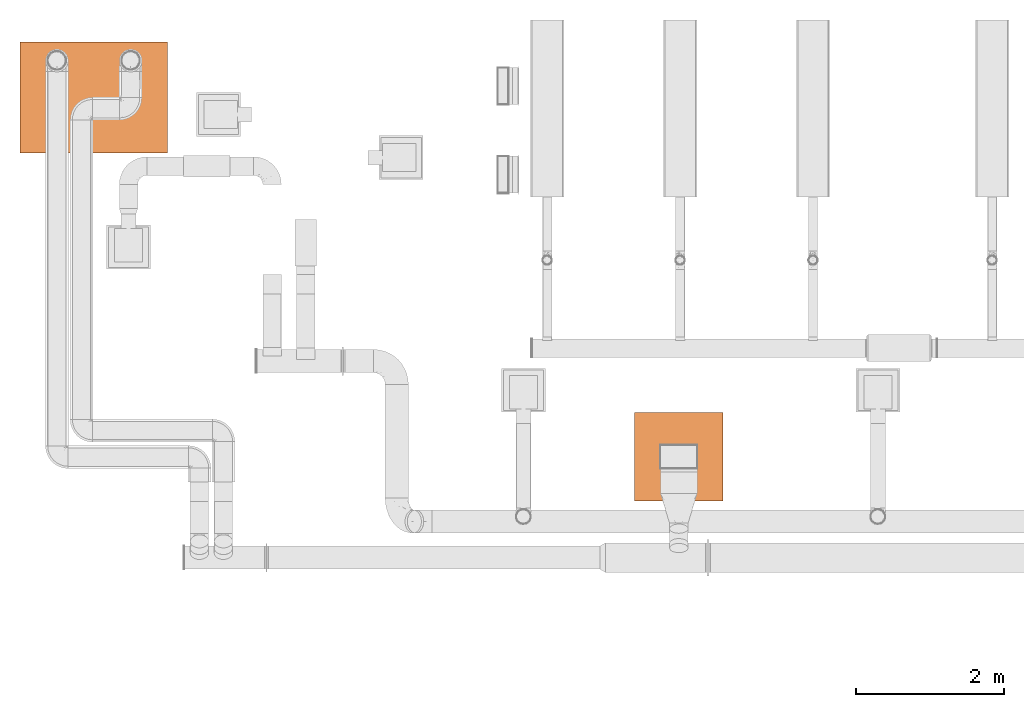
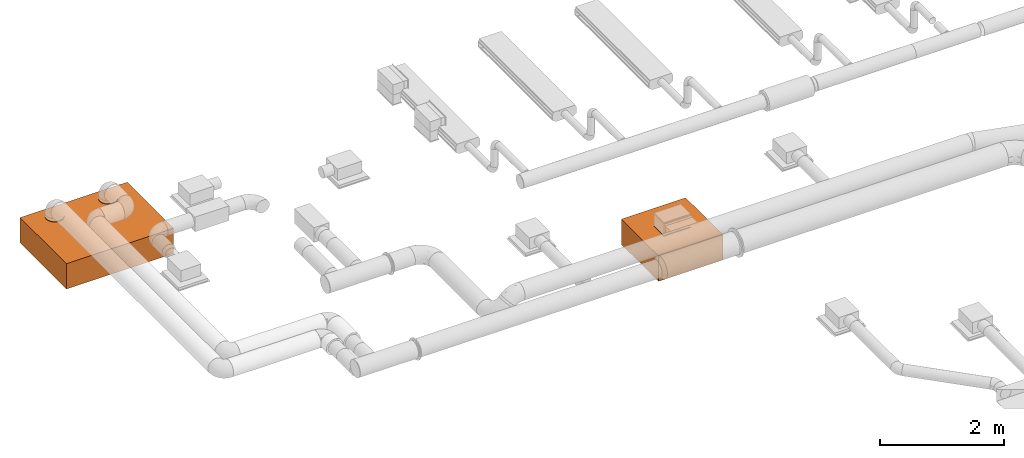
# One storey, part 36 of 36: 2 proxies.
"""IFC2X3 building model written with IfcOpenShell, lengths in millimetres."""

import ifcopenshell
import ifcopenshell.guid

model = None  # the IFC model being written
_history = None  # IfcOwnerHistory: only IFC2X3 demands one
_inside = {}  # id of a spatial element -> (the spatial element, [elements in it])
_under = {}  # id of a project, library or spatial element -> (it, [spatial elements below it])
_declared = {}  # id of a project -> (the project, [libraries it declares])
_typed = {}  # id of a type object -> (the type object, [elements of that type])
_made_of = {}  # id of a material, layer set ... -> (it, [elements and type objects made of it])


def new_model(schema):
    """Start an empty IFC model of exactly this schema.

    Asked for "IFC4X3", IfcOpenShell would pick the latest addendum, in which some entities
    have other attributes; the version numbers below select the first issue.
    IFC2X3 requires an IfcOwnerHistory on every rooted entity: one is made here for all.
    """
    global model, _history
    if schema == "IFC4X3":
        model = ifcopenshell.file(schema_version=(4, 3, 0, 0))
    else:
        model = ifcopenshell.file(schema=schema)
    _inside.clear()
    _under.clear()
    _declared.clear()
    _typed.clear()
    _made_of.clear()
    _history = None
    if model.schema == "IFC2X3":
        org = make("IfcOrganization", Name="unknown")
        user = make(
            "IfcPersonAndOrganization",
            ThePerson=make("IfcPerson", FamilyName="unknown"),
            TheOrganization=org,
        )
        app = make(
            "IfcApplication",
            ApplicationDeveloper=org,
            Version="unknown",
            ApplicationFullName="unknown",
            ApplicationIdentifier="unknown",
        )
        _history = make(
            "IfcOwnerHistory",
            OwningUser=user,
            OwningApplication=app,
            ChangeAction="ADDED",
            CreationDate=0,
        )
    return model


def make(cls, **values):
    """One entity of the class cls with the attributes given. An attribute that is None is left unset."""
    return model.create_entity(
        cls, **{name: value for name, value in values.items() if value is not None}
    )


def entity(cls, *values):
    """Any entity or typed value of the class cls, its attributes in the order of the schema. None: left unset."""
    e = model.create_entity(cls)
    for i, value in enumerate(values):
        if value is not None:
            e[i] = value
    return e


def rooted(cls, **values):
    """An entity with a GlobalId (a new one), such as an element, a storey or a relation."""
    return make(cls, GlobalId=ifcopenshell.guid.new(), OwnerHistory=_history, **values)


def si_unit(unit_type, name, prefix=None):
    """IfcSIUnit, for example si_unit("LENGTHUNIT", "METRE", prefix="MILLI")."""
    return make("IfcSIUnit", UnitType=unit_type, Prefix=prefix, Name=name)


def converted_unit(unit_type, name, factor, base, dimensions=None, offset=None):
    """IfcConversionBasedUnit, such as the inch: factor (a typed value) times the base unit."""
    return make(
        "IfcConversionBasedUnit"
        if offset is None
        else "IfcConversionBasedUnitWithOffset",
        ConversionOffset=offset,
        Dimensions=None
        if dimensions is None
        else entity("IfcDimensionalExponents", *dimensions),
        UnitType=unit_type,
        Name=name,
        ConversionFactor=make(
            "IfcMeasureWithUnit", ValueComponent=factor, UnitComponent=base
        ),
    )


def derived_unit(unit_type, elements):
    """IfcDerivedUnit: a product of units, each with its exponent."""
    return make(
        "IfcDerivedUnit",
        Elements=[
            make("IfcDerivedUnitElement", Unit=unit, Exponent=power)
            for unit, power in elements
        ],
        UnitType=unit_type,
    )


def assignment(units):
    """IfcUnitAssignment: the units of a project."""
    return None if units is None else make("IfcUnitAssignment", Units=units)


def point(xyz):
    """IfcCartesianPoint."""
    return None if xyz is None else make("IfcCartesianPoint", Coordinates=xyz)


def direction(xyz):
    """IfcDirection."""
    return None if xyz is None else make("IfcDirection", DirectionRatios=xyz)


def frame(location, z_axis=None, x_axis=None):
    """IfcAxis2Placement3D, a coordinate frame: its origin and axes. An axis left out is left unset."""
    return make(
        "IfcAxis2Placement3D",
        Location=point(location),
        Axis=direction(z_axis),
        RefDirection=direction(x_axis),
    )


def origin_with_axes():
    """The frame at (0, 0, 0) with the z axis (0, 0, 1) and the x axis (1, 0, 0) written out."""
    return frame((0.0, 0.0, 0.0), z_axis=(0.0, 0.0, 1.0), x_axis=(1.0, 0.0, 0.0))


def place(relative_to, where):
    """IfcLocalPlacement: puts the frame where relative to a parent placement (None: the world)."""
    return make(
        "IfcLocalPlacement", PlacementRelTo=relative_to, RelativePlacement=where
    )


def context(
    kind, dimensions, precision=None, world=None, true_north=None, identifier=None
):
    """IfcGeometricRepresentationContext, for example the 3D "Model" context."""
    return make(
        "IfcGeometricRepresentationContext",
        ContextIdentifier=identifier,
        ContextType=kind,
        CoordinateSpaceDimension=dimensions,
        Precision=precision,
        WorldCoordinateSystem=world,
        TrueNorth=true_north,
    )


def subcontext(parent, identifier, kind, view, scale=None):
    """IfcGeometricRepresentationSubContext, for example "Body" below "Model"."""
    return make(
        "IfcGeometricRepresentationSubContext",
        ContextIdentifier=identifier,
        ContextType=kind,
        ParentContext=parent,
        TargetScale=scale,
        TargetView=view,
    )


def project(units=None, contexts=None):
    """IfcProject with its units and contexts."""
    return rooted(
        "IfcProject",
        Name="project",
        RepresentationContexts=contexts,
        UnitsInContext=assignment(units),
    )


def spatial(cls, under=None, at=None, **own):
    """A site, building, storey or space (cls), placed at a placement, below another one or the project."""
    s = rooted(cls, ObjectPlacement=at, **own)
    if under is not None:
        _under.setdefault(under.id(), (under, []))[1].append(s)
    return s


def faces_of(points, faces, orient=None, outer=None):
    """IfcFace entities. A face is a list of loops; a loop is a list of indices into points, from 0.

    orient and outer hold one flag for each loop. By default every Orientation is true, the
    first loop of a face is its IfcFaceOuterBound and the others are IfcFaceBound.
    """
    made = []
    for i, loops in enumerate(faces):
        bounds = []
        for j, loop in enumerate(loops):
            is_outer = j == 0 if outer is None else outer[i][j]
            bounds.append(
                make(
                    "IfcFaceOuterBound" if is_outer else "IfcFaceBound",
                    Bound=make("IfcPolyLoop", Polygon=[points[k] for k in loop]),
                    Orientation=True if orient is None else orient[i][j],
                )
            )
        made.append(make("IfcFace", Bounds=bounds))
    return made


def open_shell(faces, orient=None, outer=None):
    """The faces of one IfcOpenShell. surface_model builds it on its shared points."""
    return ("IfcOpenShell", faces, orient, outer)


def surface_model(cls, points, shells):
    """IfcFaceBasedSurfaceModel or IfcShellBasedSurfaceModel (cls): surfaces that need not close."""
    shared = [point(p) for p in points]
    made = [make(c, CfsFaces=faces_of(shared, fs, o, b)) for c, fs, o, b in shells]
    if cls == "IfcFaceBasedSurfaceModel":
        return make(cls, FbsmFaces=made)
    return make(cls, SbsmBoundary=made)


def shape(context_of_items, identifier, shape_type, items):
    """IfcShapeRepresentation: the items that make up one representation, for example the "Body"."""
    return make(
        "IfcShapeRepresentation",
        ContextOfItems=context_of_items,
        RepresentationIdentifier=identifier,
        RepresentationType=shape_type,
        Items=items,
    )


def source(mapping_origin, context_of_items, identifier, shape_type, items):
    """IfcRepresentationMap: a shape defined once, which mapped items show again and again."""
    return make(
        "IfcRepresentationMap",
        MappingOrigin=mapping_origin,
        MappedRepresentation=shape(context_of_items, identifier, shape_type, items),
    )


def transform(
    local_origin,
    x_axis=None,
    y_axis=None,
    z_axis=None,
    scale=None,
    scale2=None,
    scale3=None,
    uniform=True,
):
    """IfcCartesianTransformationOperator3D, or its non-uniform kind. x_axis, y_axis, z_axis: its Axis1, 2, 3."""
    if uniform:
        return make(
            "IfcCartesianTransformationOperator3D",
            Axis1=direction(x_axis),
            Axis2=direction(y_axis),
            LocalOrigin=point(local_origin),
            Scale=scale,
            Axis3=direction(z_axis),
        )
    return make(
        "IfcCartesianTransformationOperator3DnonUniform",
        Axis1=direction(x_axis),
        Axis2=direction(y_axis),
        LocalOrigin=point(local_origin),
        Scale=scale,
        Axis3=direction(z_axis),
        Scale2=scale2,
        Scale3=scale3,
    )


def mapped(mapping_source, mapping_target):
    """IfcMappedItem: shows the shape of a source again, moved by a transform."""
    return make(
        "IfcMappedItem", MappingSource=mapping_source, MappingTarget=mapping_target
    )


def made_of(thing, what):
    """Note that an element or type object is made of a material, layer set ...; save() writes the relation."""
    if what is not None:
        _made_of.setdefault(what.id(), (what, []))[1].append(thing)
    return thing


def element(
    cls,
    number,
    at=None,
    inside=None,
    cuts=None,
    type_object=None,
    material=None,
    context=None,
    identifier="Body",
    shape_type=None,
    held_by="IfcProductDefinitionShape",
    body=None,
    shapes=None,
    **own,
):
    """One element of the class cls, such as IfcWall. Its Tag is "e" and its number.

    at: its placement. inside: the storey or other place that contains it. cuts: it is an
    opening in that element (IfcRelVoidsElement). A single representation is given by context,
    identifier, shape_type and body (its items); several are given by shapes. held_by: the class
    of the entity that holds the representations. save() writes the other relations.
    """
    e = rooted(cls, Tag="e%d" % number, ObjectPlacement=at, **own)
    if body is not None:
        shapes = [shape(context, identifier, shape_type, body)]
    if shapes is not None:
        e.Representation = make(held_by, Representations=shapes)
    if inside is not None:
        _inside.setdefault(inside.id(), (inside, []))[1].append(e)
    if cuts is not None:
        rooted(
            "IfcRelVoidsElement", RelatingBuildingElement=cuts, RelatedOpeningElement=e
        )
    if type_object is not None:
        _typed.setdefault(type_object.id(), (type_object, []))[1].append(e)
    return made_of(e, material)


def aggregate(whole, parts):
    """IfcRelAggregates: a whole, such as a stair, and the parts it consists of."""
    return rooted("IfcRelAggregates", RelatingObject=whole, RelatedObjects=parts)


def save(model, path):
    """Write the relations noted so far, then the file.

    IfcRelAggregates (storeys below a building ...), IfcRelContainedInSpatialStructure (elements
    in a storey), IfcRelDefinesByType, IfcRelAssociatesMaterial and IfcRelDeclares: one each for
    every whole, place, type object, material and project.
    """
    for whole, parts in _under.values():
        aggregate(whole, parts)
    for where, things in _inside.values():
        rooted(
            "IfcRelContainedInSpatialStructure",
            RelatedElements=things,
            RelatingStructure=where,
        )
    for kind, things in _typed.values():
        rooted("IfcRelDefinesByType", RelatedObjects=things, RelatingType=kind)
    for what, things in _made_of.values():
        rooted("IfcRelAssociatesMaterial", RelatedObjects=things, RelatingMaterial=what)
    for by, libraries in _declared.values():
        rooted("IfcRelDeclares", RelatingContext=by, RelatedDefinitions=libraries)
    model.write(path)


model = new_model("IFC2X3")

# Units and contexts
model_context = context("Model", 3, precision=0.01, world=frame((0.0, 4.29681676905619e-09, 0.0)), true_north=direction((4.01073788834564e-13, 1.0)))
plan_context = context("Plan", 3, precision=0.01, world=frame((0.0, 4.29681676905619e-09, 0.0)), true_north=direction((4.01073788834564e-13, 1.0)))
body_context = subcontext(model_context, "Body", "Model", "MODEL_VIEW")
ifc_project = project(units=[converted_unit("PLANEANGLEUNIT", "DEGREE", entity("IfcPositiveLengthMeasure", 0.0174532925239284), si_unit("PLANEANGLEUNIT", "RADIAN"), dimensions=[0, 0, 0, 0, 0, 0, 0]), si_unit("AREAUNIT", "SQUARE_METRE"), si_unit("LENGTHUNIT", "METRE", prefix="MILLI"), si_unit("MASSUNIT", "GRAM", prefix="KILO"), si_unit("POWERUNIT", "WATT"), si_unit("PRESSUREUNIT", "PASCAL"), si_unit("FORCEUNIT", "NEWTON", prefix="KILO"), si_unit("ELECTRICCURRENTUNIT", "AMPERE"), si_unit("THERMODYNAMICTEMPERATUREUNIT", "DEGREE_CELSIUS"), si_unit("TIMEUNIT", "SECOND"), si_unit("VOLUMEUNIT", "CUBIC_METRE"), derived_unit("LINEARVELOCITYUNIT", [(si_unit("LENGTHUNIT", "METRE"), 1), (si_unit("TIMEUNIT", "SECOND"), -1)]), derived_unit("VOLUMETRICFLOWRATEUNIT", [(si_unit("VOLUMEUNIT", "CUBIC_METRE"), 1), (si_unit("TIMEUNIT", "SECOND"), -1)]), derived_unit("THERMALTRANSMITTANCEUNIT", [(si_unit("POWERUNIT", "WATT"), 1), (si_unit("THERMODYNAMICTEMPERATUREUNIT", "KELVIN"), -1), (si_unit("AREAUNIT", "SQUARE_METRE"), -1)])], contexts=[model_context, plan_context])

# Site, building, storey
site_placement = place(None, frame((0.0, -4.29681676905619e-09, 0.0), z_axis=(0.0, 0.0, 1.0), x_axis=(1.0, 0.0, 0.0)))
site = spatial("IfcSite", under=ifc_project, at=site_placement, CompositionType="ELEMENT")
building_placement = place(site_placement, frame((0.0, 4.29681676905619e-09, 0.0), z_axis=(0.0, 0.0, 1.0), x_axis=(1.0, 0.0, 0.0)))
building = spatial("IfcBuilding", under=site, at=building_placement, Name="mc-building", CompositionType="ELEMENT")
storey_placement = place(building_placement, frame((0.0, 0.0, 204000.0), z_axis=(0.0, 0.0, 1.0), x_axis=(1.0, 0.0, 0.0)))
storey = spatial("IfcBuildingStorey", under=building, at=storey_placement, Name="Nivå D", CompositionType="ELEMENT", Elevation=204000.0)

# Proxies
shared_shape_1 = source(origin_with_axes(), body_context, "Body", "SurfaceModel", [
    surface_model("IfcShellBasedSurfaceModel", [(540.76401, 397.86667, 560.00001), (578.74999, 413.60099, 560.00001), (611.3693, 438.63068, 560.00001), (500.0, 392.49999, 560.00001), (636.39902, 471.25001, 560.00001), (652.1333, 509.236, 560.00001), (657.49998, 550.0, 560.00001), (363.60099, 471.25001, 560.00001), (652.1333, 590.76401, 560.00001), (459.23599, 397.86667, 560.00001), (421.25001, 413.60099, 560.00001), (388.63068, 438.63068, 560.00001), (342.49999, 550.0, 560.00001), (347.86667, 509.236, 560.00001), (540.76401, 702.13331, 560.00001), (636.39902, 628.74999, 560.00001), (578.74999, 686.39902, 560.00001), (611.3693, 661.3693, 560.00001), (388.63068, 661.3693, 560.00001), (459.23599, 702.13331, 560.00001), (500.0, 707.49998, 560.00001), (347.86667, 590.76401, 560.00001), (363.60099, 628.74999, 560.00001), (421.25001, 686.39902, 560.00001), (540.76401, 702.13331, 550.0), (459.23599, 702.13331, 550.0), (500.0, 707.49998, 550.0), (636.39902, 628.74999, 550.0), (578.74999, 686.39902, 550.0), (652.1333, 590.76401, 550.0), (611.3693, 661.3693, 550.0), (363.60099, 471.25001, 550.0), (388.63068, 661.3693, 550.0), (421.25001, 686.39902, 550.0), (347.86667, 590.76401, 550.0), (363.60099, 628.74999, 550.0), (342.49999, 550.0, 550.0), (657.49998, 550.0, 550.0), (652.1333, 509.236, 550.0), (636.39902, 471.25001, 550.0), (611.3693, 438.63068, 550.0), (578.74999, 413.60099, 550.0), (540.76401, 397.86667, 550.0), (459.23599, 397.86667, 550.0), (500.0, 392.49999, 550.0), (421.25001, 413.60099, 550.0), (388.63068, 438.63068, 550.0), (347.86667, 509.236, 550.0), (1578.75, 413.60099, 560.00001), (1500.00001, 392.49999, 560.00001), (1540.76395, 397.86667, 560.00001), (1611.36938, 438.63068, 560.00001), (1347.86671, 509.236, 560.00001), (1636.39895, 471.25001, 560.00001), (1652.13331, 509.236, 560.00001), (1657.49999, 550.0, 560.00001), (1347.86671, 590.76401, 560.00001), (1421.25002, 413.60099, 560.00001), (1459.23593, 397.86667, 560.00001), (1363.60107, 471.25001, 560.00001), (1388.63065, 438.63068, 560.00001), (1636.39895, 628.74999, 560.00001), (1578.75, 686.39902, 560.00001), (1611.36938, 661.3693, 560.00001), (1540.76395, 702.13331, 560.00001), (1459.23593, 702.13331, 560.00001), (1500.00001, 707.49998, 560.00001), (1363.60107, 628.74999, 560.00001), (1342.50003, 550.0, 560.00001), (1388.63065, 661.3693, 560.00001), (1421.25002, 686.39902, 560.00001), (1652.13331, 590.76401, 560.00001), (1540.76395, 702.13331, 550.0), (1459.23593, 702.13331, 550.0), (1500.00001, 707.49998, 550.0), (1578.75, 686.39902, 550.0), (1347.86671, 590.76401, 550.0), (1347.86671, 509.236, 550.0), (1636.39895, 628.74999, 550.0), (1611.36938, 661.3693, 550.0), (1388.63065, 661.3693, 550.0), (1421.25002, 686.39902, 550.0), (1363.60107, 628.74999, 550.0), (1342.50003, 550.0, 550.0), (1652.13331, 590.76401, 550.0), (1657.49999, 550.0, 550.0), (1652.13331, 509.236, 550.0), (1636.39895, 471.25001, 550.0), (1611.36938, 438.63068, 550.0), (1578.75, 413.60099, 550.0), (1540.76395, 397.86667, 550.0), (1500.00001, 392.49999, 550.0), (1363.60107, 471.25001, 550.0), (1421.25002, 413.60099, 550.0), (1388.63065, 438.63068, 550.0), (1459.23593, 397.86667, 550.0), (0.0, 300.0, 550.0), (2000.00002, 300.0, 550.0), (0.0, 1800.00001, 550.0), (2000.00002, 1800.00001, 550.0), (0.0, 1800.00001, 50.48458), (2000.00002, 1800.00001, 50.48458), (0.0, 300.0, 50.48458), (2000.00002, 300.0, 50.48458)], [open_shell([[[0, 1, 2]], [[3, 0, 2]], [[4, 5, 6]], [[2, 4, 7]], [[4, 8, 7]], [[9, 7, 10]], [[9, 3, 2]], [[10, 7, 11]], [[2, 7, 9]], [[7, 12, 13]], [[8, 4, 6]], [[14, 8, 15]], [[16, 15, 17]], [[14, 18, 7]], [[14, 15, 16]], [[19, 14, 20]], [[21, 18, 22]], [[18, 21, 12]], [[18, 19, 23]], [[12, 7, 18]], [[14, 19, 18]], [[7, 8, 14]], [[24, 25, 26]], [[27, 24, 28]], [[27, 29, 24]], [[27, 28, 30]], [[31, 32, 24]], [[25, 32, 33]], [[25, 24, 32]], [[32, 34, 35]], [[34, 32, 36]], [[32, 31, 36]], [[31, 24, 29]], [[37, 38, 39]], [[29, 39, 40]], [[40, 41, 42]], [[40, 43, 29]], [[42, 44, 40]], [[31, 45, 46]], [[47, 36, 31]], [[31, 43, 45]], [[29, 43, 31]], [[44, 43, 40]], [[39, 29, 37]], [[47, 13, 36]], [[31, 7, 47]], [[10, 46, 45]], [[31, 46, 11]], [[9, 45, 43]], [[47, 7, 13]], [[13, 12, 36]], [[9, 10, 45]], [[11, 46, 10]], [[11, 7, 31]], [[3, 9, 43]], [[43, 44, 3]], [[42, 0, 44]], [[41, 1, 42]], [[4, 40, 39]], [[41, 40, 2]], [[5, 39, 38]], [[41, 2, 1]], [[1, 0, 42]], [[6, 5, 38]], [[4, 39, 5]], [[4, 2, 40]], [[37, 6, 38]], [[44, 0, 3]], [[29, 8, 37]], [[27, 15, 29]], [[16, 30, 28]], [[27, 30, 17]], [[14, 28, 24]], [[29, 15, 8]], [[8, 6, 37]], [[14, 16, 28]], [[17, 30, 16]], [[17, 15, 27]], [[20, 14, 24]], [[24, 26, 20]], [[19, 26, 25]], [[22, 35, 34]], [[35, 18, 32]], [[21, 34, 36]], [[25, 23, 19]], [[23, 25, 33]], [[23, 33, 18]], [[33, 32, 18]], [[35, 22, 18]], [[21, 22, 34]], [[36, 12, 21]], [[26, 19, 20]], [[48, 49, 50]], [[51, 52, 48]], [[53, 54, 55]], [[52, 51, 53]], [[53, 56, 52]], [[49, 57, 58]], [[49, 48, 57]], [[57, 59, 60]], [[59, 57, 52]], [[48, 52, 57]], [[53, 55, 61]], [[61, 62, 53]], [[62, 61, 63]], [[56, 53, 64]], [[53, 62, 64]], [[65, 64, 66]], [[56, 65, 67]], [[68, 52, 56]], [[69, 65, 70]], [[65, 69, 67]], [[64, 65, 56]], [[61, 55, 71]], [[72, 73, 74]], [[75, 76, 72]], [[77, 76, 75]], [[78, 75, 79]], [[77, 75, 78]], [[73, 80, 81]], [[80, 73, 82]], [[73, 76, 82]], [[73, 72, 76]], [[76, 77, 83]], [[78, 84, 85]], [[85, 86, 87]], [[78, 87, 77]], [[77, 88, 89]], [[88, 77, 87]], [[90, 91, 89]], [[92, 93, 94]], [[93, 92, 77]], [[93, 91, 95]], [[93, 77, 89]], [[89, 91, 93]], [[87, 78, 85]], [[77, 52, 83]], [[92, 59, 77]], [[57, 94, 93]], [[92, 94, 60]], [[58, 93, 95]], [[77, 59, 52]], [[52, 68, 83]], [[58, 57, 93]], [[60, 94, 57]], [[60, 59, 92]], [[49, 58, 95]], [[95, 91, 49]], [[90, 50, 91]], [[89, 48, 90]], [[53, 88, 87]], [[89, 88, 51]], [[54, 87, 86]], [[89, 51, 48]], [[48, 50, 90]], [[55, 54, 86]], [[53, 87, 54]], [[53, 51, 88]], [[85, 55, 86]], [[91, 50, 49]], [[84, 71, 85]], [[78, 61, 84]], [[62, 79, 75]], [[78, 79, 63]], [[64, 75, 72]], [[84, 61, 71]], [[71, 55, 85]], [[64, 62, 75]], [[63, 79, 62]], [[63, 61, 78]], [[66, 64, 72]], [[72, 74, 66]], [[65, 74, 73]], [[67, 82, 76]], [[82, 69, 80]], [[56, 76, 83]], [[73, 70, 65]], [[70, 73, 81]], [[70, 81, 69]], [[81, 80, 69]], [[82, 67, 69]], [[56, 67, 76]], [[83, 68, 56]], [[74, 65, 66]], [[96, 97, 98]], [[99, 98, 97]], [[100, 101, 102]], [[103, 102, 101]], [[99, 97, 101]], [[103, 101, 97]], [[98, 99, 101]], [[101, 100, 98]], [[96, 98, 102]], [[100, 102, 98]], [[97, 96, 102]], [[102, 103, 97]]])]),
])
proxy_1_placement = place(storey_placement, frame((516077.5, 421015.19145, 1850.0), z_axis=(0.0, 0.0, 1.0), x_axis=(-1.0, 0.0, 0.0)))
element("IfcBuildingElementProxy", 1, at=proxy_1_placement, inside=storey, Name="hette 1100-2000-550 2ø315", context=body_context, shape_type="MappedRepresentation", body=[
    mapped(shared_shape_1, transform((0.0, 0.0, 0.0), scale=1.0)),
])
shared_shape_2 = source(origin_with_axes(), body_context, "Body", "SurfaceModel", [
    surface_model("IfcShellBasedSurfaceModel", [(0.0, 0.0, 500.0), (0.0, 1200.0, 500.0), (0.0, 1200.0, 0.0), (0.0, 0.0, 0.0), (1200.0, 0.0, 500.0), (1200.0, 0.0, 0.0), (759.37451, 346.5997, 510.00001), (759.37451, 846.59971, 510.00001), (439.37453, 346.5997, 510.00001), (439.37453, 846.59971, 510.00001), (439.37453, 346.5997, 500.0), (439.37453, 846.59971, 500.0), (759.37451, 846.59971, 500.0), (759.37451, 346.5997, 500.0), (1200.0, 1200.0, 500.0), (1200.0, 1200.0, 0.0)], [open_shell([[[0, 1, 2]], [[2, 3, 0]], [[4, 0, 3]], [[3, 5, 4]], [[6, 7, 8]], [[9, 8, 7]], [[10, 11, 12]], [[12, 13, 10]], [[9, 7, 12]], [[12, 11, 9]], [[8, 9, 10]], [[11, 10, 9]], [[6, 8, 10]], [[10, 13, 6]], [[7, 6, 12]], [[13, 12, 6]], [[0, 4, 14]], [[14, 1, 0]], [[2, 15, 5]], [[5, 3, 2]], [[14, 4, 5]], [[5, 15, 14]], [[1, 14, 15]], [[15, 2, 1]]])]),
])
proxy_2_placement = place(storey_placement, frame((523596.64427, 414500.0, 2000.0), z_axis=(0.0, 0.0, 1.0), x_axis=(0.0, 1.0, 0.0)))
element("IfcBuildingElementProxy", 2, at=proxy_2_placement, inside=storey, Name="hette 1200-1200-400 ø315 2", context=body_context, shape_type="MappedRepresentation", body=[
    mapped(shared_shape_2, transform((0.0, 0.0, 0.0), scale=1.0)),
])

save(model, "model.ifc")
